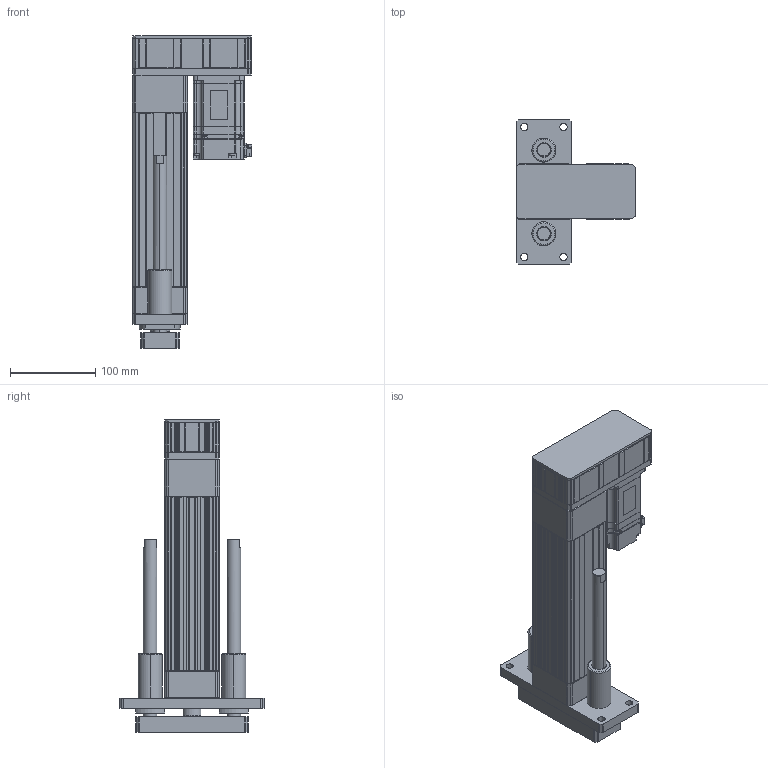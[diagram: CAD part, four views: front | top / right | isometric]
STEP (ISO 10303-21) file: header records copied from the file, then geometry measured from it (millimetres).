
FILE_DESCRIPTION (( 'STEP AP203' ), '1' );
FILE_NAME ('ANS065R-GP100-05(10)(20)-W40.STEP', '2019-03-01T08:49:39', ( 'user' ), ( '' ), 'SwSTEP 2.0', 'SolidWorks 2013', '' );
FILE_SCHEMA (( 'CONFIG_CONTROL_DESIGN' ));
Length unit declared in the file: millimetre
Products named in the file (4): ANS065 ROD ST100 G; sgmjv_04a_a21; ANS065R-GP100-05(10)(20)-W40; ANS065R GP100 VER2
Assembly tree (3 placements, depth 2):
  ANS065R-GP100-05(10)(20)-W40
    ANS065R GP100 VER2
    ANS065 ROD ST100 G
    sgmjv_04a_a21
Bounding box: 140.3 x 170 x 366 mm (x, y, z)
Volume: 1546223.6 mm3; surface area: 358192.9 mm2
Topology: 3 solids, 19 shells, 1720 faces, 4439 edges, 2846 vertices
Faces by surface type: plane 1030, cylinder 504, cone 182, torus 4
Entity records: 52345 total; most frequent: CARTESIAN_POINT 9317, DIRECTION 8915, ORIENTED_EDGE 8830, EDGE_CURVE 4415, LINE 3163, VECTOR 3163, AXIS2_PLACEMENT_3D 2876, VERTEX_POINT 2846
